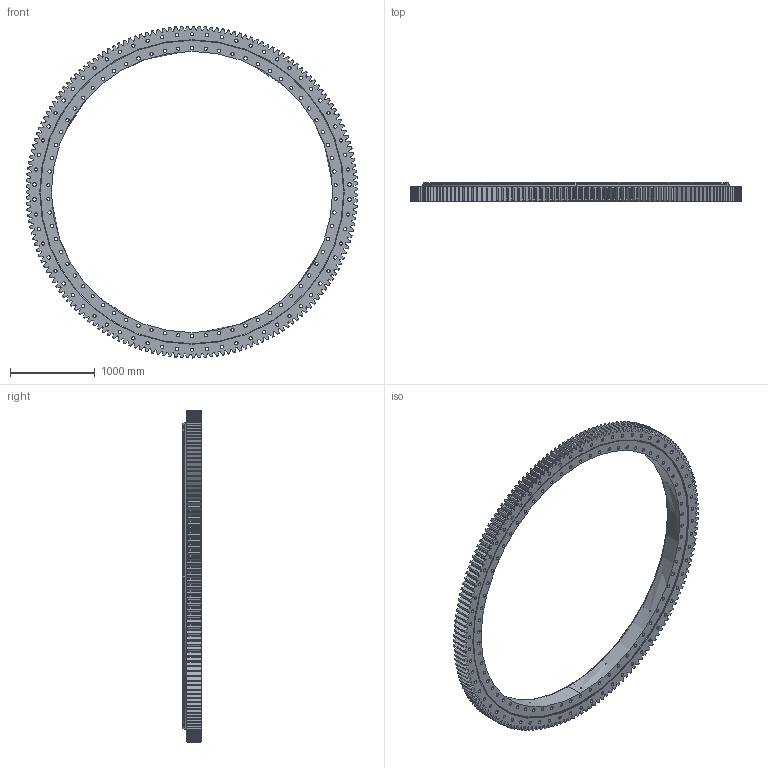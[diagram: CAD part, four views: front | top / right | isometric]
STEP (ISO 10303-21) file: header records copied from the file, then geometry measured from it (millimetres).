
FILE_DESCRIPTION (( 'STEP AP214' ), '1' );
FILE_NAME ('SM3340-2-3912AA.STEP', '2022-11-29T07:14:02', ( '' ), ( '' ), 'SwSTEP 2.0', 'SolidWorks 2020', '' );
FILE_SCHEMA (( 'AUTOMOTIVE_DESIGN' ));
Length unit declared in the file: millimetre
Products named in the file (1): SM3340-2-3912AA
Bounding box: 3911.43 x 220 x 3911.57 mm (x, y, z)
Volume: 565343279.8 mm3; surface area: 22745217.8 mm2
Topology: 5 solids, 5 shells, 1711 faces, 4969 edges, 3304 vertices
Faces by surface type: cylinder 579, plane 420, cone 362, bspline 350
Entity records: 61395 total; most frequent: CARTESIAN_POINT 18107, ORIENTED_EDGE 9938, DIRECTION 7655, EDGE_CURVE 4969, VERTEX_POINT 3304, AXIS2_PLACEMENT_3D 2812, EDGE_LOOP 2049, VECTOR 2031
